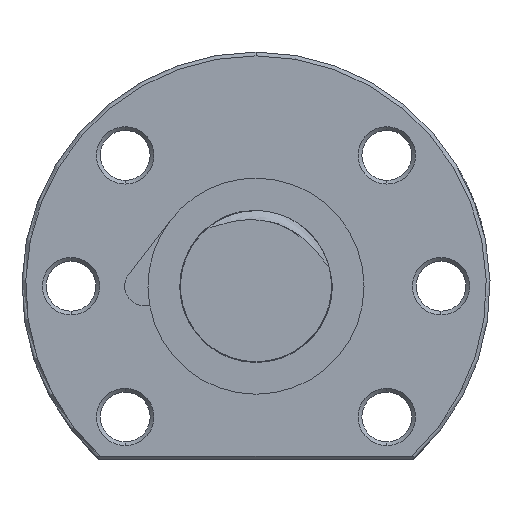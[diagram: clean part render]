
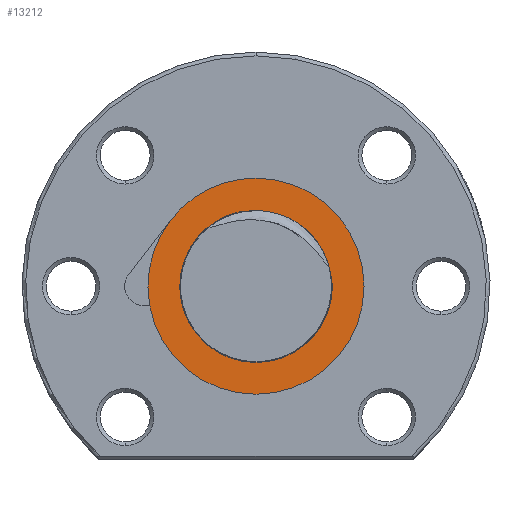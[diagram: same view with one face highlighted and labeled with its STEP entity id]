
A CAD part, left-side view. The second image highlights one B-rep face of the part: STEP entity #13212.
In plain terms, the highlighted planar face has unit normal (-1, 0, 0).
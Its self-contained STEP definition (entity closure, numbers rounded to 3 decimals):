
#16 = DIRECTION ( 'NONE',  ( 0., 0., 1. ) ) ;
#17 = DIRECTION ( 'NONE',  ( -1., 0., 0. ) ) ;
#18 = AXIS2_PLACEMENT_3D ( 'NONE', #25, #17, #16 ) ;
#19 = CIRCLE ( 'NONE', #18, 14.313 ) ;
#25 = CARTESIAN_POINT ( 'NONE',  ( -46.8, 0., 0. ) ) ;
#79 = DIRECTION ( 'NONE',  ( 0., 0., 1. ) ) ;
#80 = DIRECTION ( 'NONE',  ( -1., 0., 0. ) ) ;
#81 = AXIS2_PLACEMENT_3D ( 'NONE', #112, #80, #79 ) ;
#82 = CIRCLE ( 'NONE', #81, 14.313 ) ;
#83 = DIRECTION ( 'NONE',  ( 0., 0., 1. ) ) ;
#84 = DIRECTION ( 'NONE',  ( -1., 0., 0. ) ) ;
#85 = AXIS2_PLACEMENT_3D ( 'NONE', #113, #84, #83 ) ;
#111 = CIRCLE ( 'NONE', #85, 10.1 ) ;
#112 = CARTESIAN_POINT ( 'NONE',  ( -46.8, 0., 0. ) ) ;
#113 = CARTESIAN_POINT ( 'NONE',  ( -46.8, 0., 0. ) ) ;
#161 = CARTESIAN_POINT ( 'NONE',  ( -46.8, 14.095, -2.486 ) ) ;
#262 = CARTESIAN_POINT ( 'NONE',  ( -46.8, 4.996, 8.503 ) ) ;
#263 = CARTESIAN_POINT ( 'NONE',  ( -46.8, 4.899, 8.507 ) ) ;
#264 = CARTESIAN_POINT ( 'NONE',  ( -46.8, 4.609, 8.531 ) ) ;
#265 = CARTESIAN_POINT ( 'NONE',  ( -46.8, 4.417, 8.558 ) ) ;
#266 = CARTESIAN_POINT ( 'NONE',  ( -46.8, 3.841, 8.645 ) ) ;
#267 = CARTESIAN_POINT ( 'NONE',  ( -46.8, 3.459, 8.709 ) ) ;
#268 = CARTESIAN_POINT ( 'NONE',  ( -46.8, 2.69, 8.814 ) ) ;
#269 = CARTESIAN_POINT ( 'NONE',  ( -46.8, 2.303, 8.857 ) ) ;
#270 = CARTESIAN_POINT ( 'NONE',  ( -46.8, 1.531, 8.909 ) ) ;
#271 = CARTESIAN_POINT ( 'NONE',  ( -46.8, 1.145, 8.919 ) ) ;
#272 = CARTESIAN_POINT ( 'NONE',  ( -46.8, 0.376, 8.903 ) ) ;
#273 = CARTESIAN_POINT ( 'NONE',  ( -46.8, -0.008, 8.876 ) ) ;
#274 = CARTESIAN_POINT ( 'NONE',  ( -46.8, -0.773, 8.784 ) ) ;
#275 = CARTESIAN_POINT ( 'NONE',  ( -46.8, -1.157, 8.718 ) ) ;
#276 = CARTESIAN_POINT ( 'NONE',  ( -46.8, -2.291, 8.459 ) ) ;
#277 = CARTESIAN_POINT ( 'NONE',  ( -46.8, -3.016, 8.21 ) ) ;
#278 = CARTESIAN_POINT ( 'NONE',  ( -46.8, -4.057, 7.72 ) ) ;
#279 = CARTESIAN_POINT ( 'NONE',  ( -46.8, -4.396, 7.537 ) ) ;
#280 = CARTESIAN_POINT ( 'NONE',  ( -46.8, -5.058, 7.133 ) ) ;
#281 = CARTESIAN_POINT ( 'NONE',  ( -46.8, -5.378, 6.912 ) ) ;
#282 = CARTESIAN_POINT ( 'NONE',  ( -46.8, -6.292, 6.208 ) ) ;
#283 = CARTESIAN_POINT ( 'NONE',  ( -46.8, -6.846, 5.678 ) ) ;
#284 = CARTESIAN_POINT ( 'NONE',  ( -46.8, -7.601, 4.804 ) ) ;
#285 = CARTESIAN_POINT ( 'NONE',  ( -46.8, -7.841, 4.498 ) ) ;
#286 = CARTESIAN_POINT ( 'NONE',  ( -46.8, -8.294, 3.868 ) ) ;
#287 = CARTESIAN_POINT ( 'NONE',  ( -46.8, -8.507, 3.545 ) ) ;
#288 = CARTESIAN_POINT ( 'NONE',  ( -46.8, -8.915, 2.886 ) ) ;
#289 = CARTESIAN_POINT ( 'NONE',  ( -46.8, -9.11, 2.55 ) ) ;
#290 = CARTESIAN_POINT ( 'NONE',  ( -46.8, -9.41, 2.052 ) ) ;
#291 = CARTESIAN_POINT ( 'NONE',  ( -46.8, -9.511, 1.886 ) ) ;
#292 = CARTESIAN_POINT ( 'NONE',  ( -46.8, -9.677, 1.648 ) ) ;
#293 = CARTESIAN_POINT ( 'NONE',  ( -46.8, -9.735, 1.571 ) ) ;
#294 = CARTESIAN_POINT ( 'NONE',  ( -46.8, -9.862, 1.425 ) ) ;
#295 = CARTESIAN_POINT ( 'NONE',  ( -46.8, -9.932, 1.355 ) ) ;
#296 = CARTESIAN_POINT ( 'NONE',  ( -46.8, -10.015, 1.304 ) ) ;
#298 = B_SPLINE_CURVE_WITH_KNOTS ( 'NONE', 3,
 ( #296, #295, #294, #293, #292, #291, #290, #289, #288, #287, #286, #285, #284, #283, #282, #281, #280, #279, #278, #277, #276, #275, #274, #273, #272, #271, #270, #269, #268, #267, #266, #265, #264, #263, #262, #319, #318, #317 ),
 .UNSPECIFIED., .F., .F.,
 ( 4, 2, 2, 2, 2, 2, 2, 2, 2, 2, 2, 2, 2, 2, 2, 2, 2, 2, 4 ),
 ( 0.025, 0.025, 0.025, 0.026, 0.027, 0.028, 0.029, 0.032, 0.033, 0.034, 0.036, 0.037, 0.039, 0.04, 0.041, 0.042, 0.043, 0.043, 0.043 ),
 .UNSPECIFIED. ) ;
#300 = DIRECTION ( 'NONE',  ( 0., 0., 1. ) ) ;
#301 = DIRECTION ( 'NONE',  ( -1., 0., 0. ) ) ;
#302 = CARTESIAN_POINT ( 'NONE',  ( -46.8, 0., 10.1 ) ) ;
#303 = AXIS2_PLACEMENT_3D ( 'NONE', #302, #301, #300 ) ;
#304 = PLANE ( 'NONE',  #303 ) ;
#317 = CARTESIAN_POINT ( 'NONE',  ( -46.8, 5.379, 8.548 ) ) ;
#318 = CARTESIAN_POINT ( 'NONE',  ( -46.8, 5.287, 8.517 ) ) ;
#319 = CARTESIAN_POINT ( 'NONE',  ( -46.8, 5.189, 8.508 ) ) ;
#320 = FACE_OUTER_BOUND ( 'NONE', #13173, .T. ) ;
#321 = FACE_BOUND ( 'NONE', #13216, .T. ) ;
#7606 = CARTESIAN_POINT ( 'NONE',  ( -46.8, 0., 14.313 ) ) ;
#7607 = CARTESIAN_POINT ( 'NONE',  ( -46.8, 0., -14.313 ) ) ;
#7608 = DIRECTION ( 'NONE',  ( 0., 0., 1. ) ) ;
#7609 = DIRECTION ( 'NONE',  ( -1., 0., 0. ) ) ;
#7610 = CARTESIAN_POINT ( 'NONE',  ( -46.8, 0., 0. ) ) ;
#7611 = AXIS2_PLACEMENT_3D ( 'NONE', #7610, #7609, #7608 ) ;
#7616 = CIRCLE ( 'NONE', #7611, 14.313 ) ;
#7653 = DIRECTION ( 'NONE',  ( 0., 0., 1. ) ) ;
#7654 = DIRECTION ( 'NONE',  ( -1., 0., 0. ) ) ;
#7655 = CARTESIAN_POINT ( 'NONE',  ( -46.8, 0., 0. ) ) ;
#7656 = AXIS2_PLACEMENT_3D ( 'NONE', #7655, #7654, #7653 ) ;
#7657 = CIRCLE ( 'NONE', #7656, 10.1 ) ;
#7658 = CARTESIAN_POINT ( 'NONE',  ( -46.8, 0., -10.1 ) ) ;
#12390 = VERTEX_POINT ( 'NONE', #15489 ) ;
#12652 = EDGE_CURVE ( 'NONE', #12779, #12653, #15931, .T. ) ;
#12653 = VERTEX_POINT ( 'NONE', #15896 ) ;
#12776 = EDGE_CURVE ( 'NONE', #12778, #12779, #7616, .T. ) ;
#12778 = VERTEX_POINT ( 'NONE', #7607 ) ;
#12779 = VERTEX_POINT ( 'NONE', #7606 ) ;
#12788 = VERTEX_POINT ( 'NONE', #7658 ) ;
#12795 = EDGE_CURVE ( 'NONE', #12788, #12390, #7657, .T. ) ;
#13054 = EDGE_CURVE ( 'NONE', #13142, #12778, #19, .T. ) ;
#13142 = VERTEX_POINT ( 'NONE', #161 ) ;
#13170 = EDGE_CURVE ( 'NONE', #13346, #12788, #111, .T. ) ;
#13173 = EDGE_LOOP ( 'NONE', ( #13175, #13179, #13181, #13183 ) ) ;
#13175 = ORIENTED_EDGE ( 'NONE', *, *, #13177, .T. ) ;
#13177 = EDGE_CURVE ( 'NONE', #12653, #13142, #82, .T. ) ;
#13179 = ORIENTED_EDGE ( 'NONE', *, *, #13054, .T. ) ;
#13181 = ORIENTED_EDGE ( 'NONE', *, *, #12776, .T. ) ;
#13183 = ORIENTED_EDGE ( 'NONE', *, *, #12652, .T. ) ;
#13212 = ADVANCED_FACE ( 'NONE', ( #321, #320 ), #304, .T. ) ;
#13216 = EDGE_LOOP ( 'NONE', ( #13218, #13220, #13224 ) ) ;
#13218 = ORIENTED_EDGE ( 'NONE', *, *, #13170, .F. ) ;
#13220 = ORIENTED_EDGE ( 'NONE', *, *, #13222, .F. ) ;
#13222 = EDGE_CURVE ( 'NONE', #12390, #13346, #298, .T. ) ;
#13224 = ORIENTED_EDGE ( 'NONE', *, *, #12795, .F. ) ;
#13346 = VERTEX_POINT ( 'NONE', #19950 ) ;
#15489 = CARTESIAN_POINT ( 'NONE',  ( -46.8, -10.015, 1.304 ) ) ;
#15896 = CARTESIAN_POINT ( 'NONE',  ( -46.8, 11.329, 8.746 ) ) ;
#15897 = DIRECTION ( 'NONE',  ( 0., 0., 1. ) ) ;
#15898 = DIRECTION ( 'NONE',  ( -1., 0., 0. ) ) ;
#15899 = AXIS2_PLACEMENT_3D ( 'NONE', #15936, #15898, #15897 ) ;
#15931 = CIRCLE ( 'NONE', #15899, 14.313 ) ;
#15936 = CARTESIAN_POINT ( 'NONE',  ( -46.8, 0., 0. ) ) ;
#19950 = CARTESIAN_POINT ( 'NONE',  ( -46.8, 5.379, 8.548 ) ) ;
